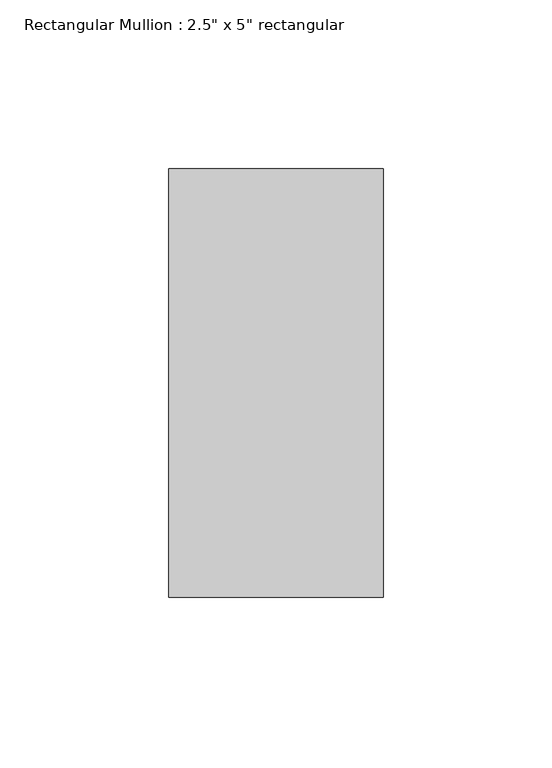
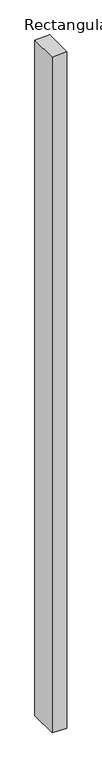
"""IFC4 building model written with IfcOpenShell, lengths in millimetres: member geometry."""

from ifc_helpers import new_model, si_unit, frame, origin, place, context, project, spatial, polyline, outline, extrude, source, transform, mapped, element, save


def member_8b387e88(model_context):
    return source(origin(), model_context, "Body", "SweptSolid", [
        extrude(outline(polyline([(0.0, 0.0), (-1.2429022, -63.5), (-3046.7640688, -63.5), (-3048.0068675, 0.0), (0.0, 0.0)])), frame((0.0, -63.5, 0.0), z_axis=(0.0, 1.0, 0.0), x_axis=(0.0, 0.0, 1.0)), (0.0, 0.0, 1.0), 127.0),
    ])


if __name__ == "__main__":
    model = new_model("IFC4")
    model_context = context("Model", 3, world=origin())
    ifc_project = project(units=[si_unit("LENGTHUNIT", "METRE", prefix="MILLI")], contexts=[model_context])
    site = spatial("IfcSite", under=ifc_project)
    building = spatial("IfcBuilding", under=site)
    placement = place(None, origin())
    member_shape = member_8b387e88(model_context)
    element("IfcMember", 1, ObjectType="Rectangular Mullion : 2.5\" x 5\" rectangular", at=placement, inside=building, context=model_context, shape_type="MappedRepresentation", body=[
        mapped(member_shape, transform((0.0, 0.0, 0.0), x_axis=(1.0, 0.0, 0.0), y_axis=(0.0, 1.0, 0.0), z_axis=(0.0, 0.0, 1.0))),
    ])
    save(model, "model.ifc")
